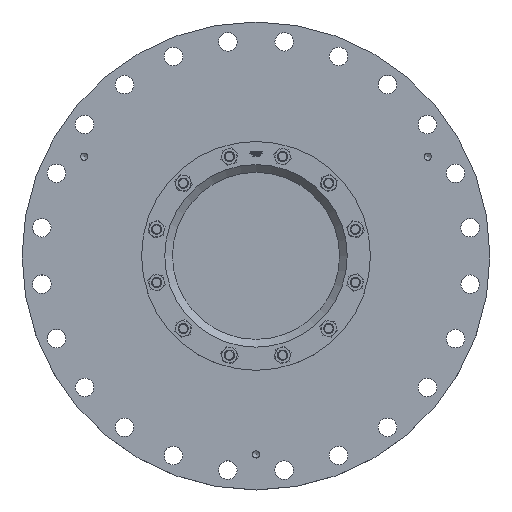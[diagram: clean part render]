
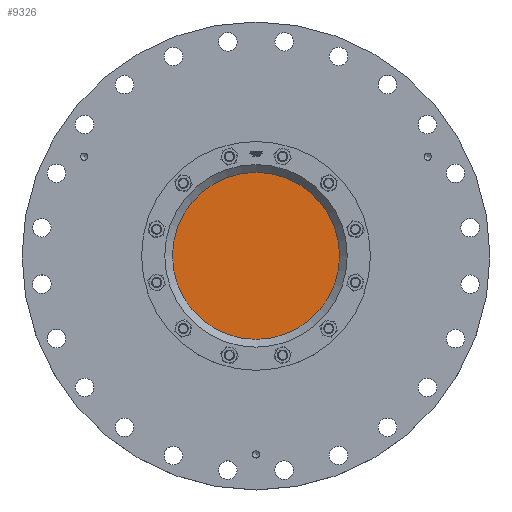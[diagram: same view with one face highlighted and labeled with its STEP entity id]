
A CAD part, top view. The second image highlights one B-rep face of the part: STEP entity #9326.
In plain terms, the highlighted planar face has unit normal (0, 0, 1).
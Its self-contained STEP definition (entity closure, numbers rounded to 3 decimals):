
#1848=PLANE('',#9992);
#2386=FACE_OUTER_BOUND('',#2984,.T.);
#2984=EDGE_LOOP('',(#6430));
#3672=CIRCLE('',#9993,162.5);
#4052=VERTEX_POINT('',#13529);
#4997=EDGE_CURVE('',#4052,#4052,#3672,.T.);
#6430=ORIENTED_EDGE('',*,*,#4997,.F.);
#9326=ADVANCED_FACE('',(#2386),#1848,.F.);
#9992=AXIS2_PLACEMENT_3D('',#13528,#10994,#10995);
#9993=AXIS2_PLACEMENT_3D('',#13530,#10996,#10997);
#10994=DIRECTION('center_axis',(0.,0.,-1.));
#10995=DIRECTION('ref_axis',(-1.,0.,0.));
#10996=DIRECTION('center_axis',(0.,0.,-1.));
#10997=DIRECTION('ref_axis',(-1.,0.,0.));
#13528=CARTESIAN_POINT('Origin',(0.,0.,163.));
#13529=CARTESIAN_POINT('',(162.5,0.,163.));
#13530=CARTESIAN_POINT('Origin',(0.,0.,163.));
